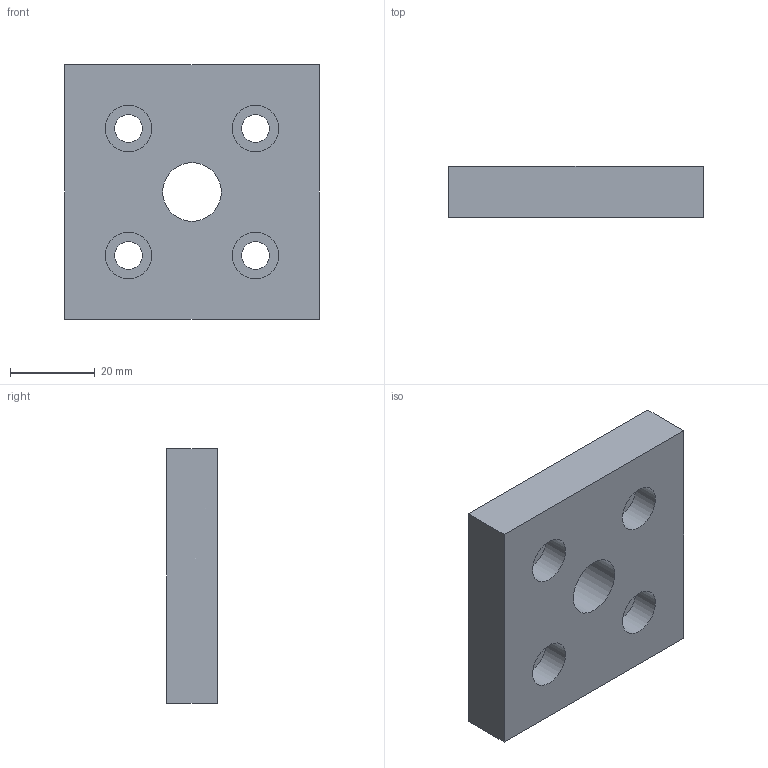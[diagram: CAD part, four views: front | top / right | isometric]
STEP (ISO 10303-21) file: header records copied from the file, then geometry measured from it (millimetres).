
FILE_DESCRIPTION(/* description */ ('Unknown'),/* implementation_level */ '2;1');
FILE_NAME(/* name */ 'FTB6060M16',/* time_stamp */ '2026-09-30T09:00:34+08:00',/* author */ ('Unknown'),/* organization */ ('Unknown'),/* preprocessor_version */ 'ST-DEVELOPER v16.7',/* originating_system */ 'DEX',/* authorisation */ $);
FILE_SCHEMA (('AUTOMOTIVE_DESIGN {1 0 10303 214 3 1 1}'));
Length unit declared in the file: millimetre
Products named in the file (1): FTB6060
Bounding box: 60 x 12 x 60 mm (x, y, z)
Volume: 38195.1 mm3; surface area: 11383.2 mm2
Topology: 1 solids, 1 shells, 19 faces, 44 edges, 31 vertices
Faces by surface type: plane 10, cylinder 9
Full cylindrical faces by diameter (mm): 6.5 x4, 11 x4, 13.835 x1
Entity records: 643 total; most frequent: DIRECTION 88, CARTESIAN_POINT 76, ORIENTED_EDGE 60, EDGE_LOOP 42, FACE_BOUND 42, AXIS2_PLACEMENT_3D 38, EDGE_CURVE 30, VERTEX_POINT 26
